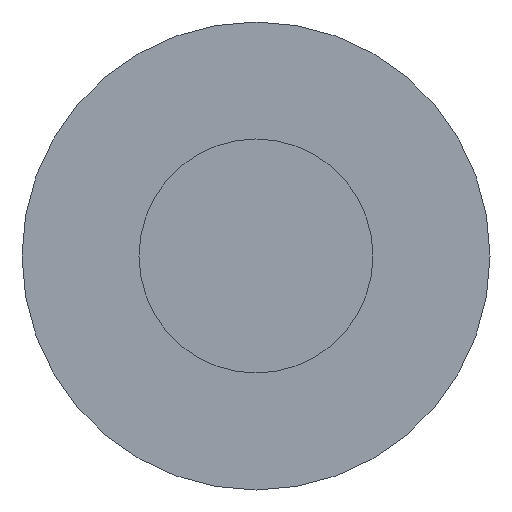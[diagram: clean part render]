
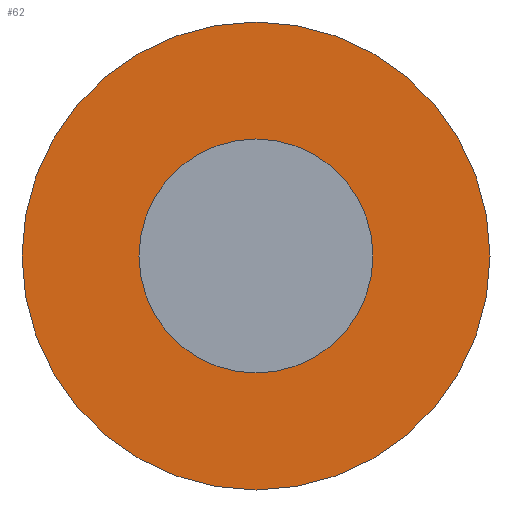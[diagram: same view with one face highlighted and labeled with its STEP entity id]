
A CAD part, front view. The second image highlights one B-rep face of the part: STEP entity #62.
In plain terms, the highlighted planar face has unit normal (0, -1, 0).
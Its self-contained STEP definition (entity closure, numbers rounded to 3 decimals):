
#21=FACE_BOUND('',#28,.T.);
#22=FACE_OUTER_BOUND('',#27,.T.);
#27=EDGE_LOOP('',(#47));
#28=EDGE_LOOP('',(#48));
#33=CIRCLE('',#82,20.);
#34=CIRCLE('',#83,10.);
#37=VERTEX_POINT('',#114);
#38=VERTEX_POINT('',#116);
#41=EDGE_CURVE('',#37,#37,#33,.T.);
#42=EDGE_CURVE('',#38,#38,#34,.T.);
#47=ORIENTED_EDGE('',*,*,#41,.F.);
#48=ORIENTED_EDGE('',*,*,#42,.T.);
#59=PLANE('',#81);
#62=ADVANCED_FACE('',(#22,#21),#59,.F.);
#81=AXIS2_PLACEMENT_3D('',#113,#92,#93);
#82=AXIS2_PLACEMENT_3D('',#115,#94,#95);
#83=AXIS2_PLACEMENT_3D('',#117,#96,#97);
#92=DIRECTION('center_axis',(0.,1.,0.));
#93=DIRECTION('ref_axis',(-1.,0.,0.));
#94=DIRECTION('center_axis',(0.,1.,0.));
#95=DIRECTION('ref_axis',(-1.,0.,0.));
#96=DIRECTION('center_axis',(0.,1.,0.));
#97=DIRECTION('ref_axis',(-1.,0.,0.));
#113=CARTESIAN_POINT('Origin',(-189.933,60.,0.25));
#114=CARTESIAN_POINT('',(-169.933,60.,0.25));
#115=CARTESIAN_POINT('Origin',(-189.933,60.,0.25));
#116=CARTESIAN_POINT('',(-179.933,60.,0.25));
#117=CARTESIAN_POINT('Origin',(-189.933,60.,0.25));
